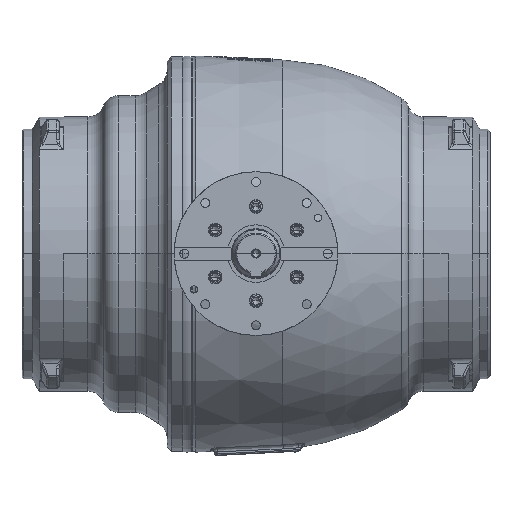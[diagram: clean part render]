
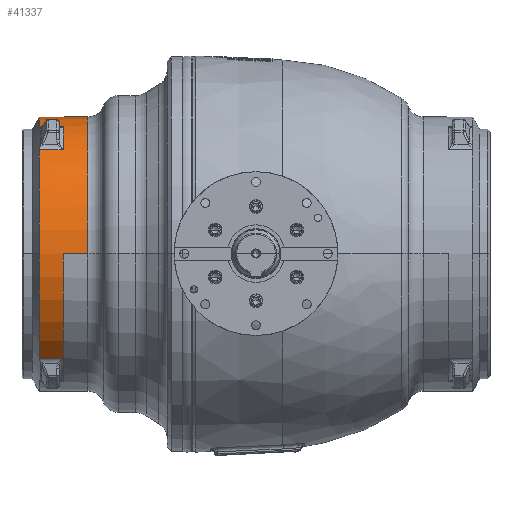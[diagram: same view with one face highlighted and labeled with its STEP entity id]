
A CAD part, top view. The second image highlights one B-rep face of the part: STEP entity #41337.
In plain terms, the highlighted cylindrical face has radius 335 mm (diameter 670 mm), a partial arc.
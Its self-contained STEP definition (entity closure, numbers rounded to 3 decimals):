
#1618=CARTESIAN_POINT('',(-471.,0.,0.));
#1619=DIRECTION('',(-1.,0.,0.));
#1620=DIRECTION('',(0.,-0.76,0.65));
#1621=AXIS2_PLACEMENT_3D('',#1618,#1619,#1620);
#1623=DIRECTION('',(-1.,0.,0.));
#1624=VECTOR('',#1623,60.56);
#1625=CARTESIAN_POINT('',(-410.44,0.,335.));
#1626=LINE('',#1625,#1624);
#1632=DIRECTION('',(-1.,0.,0.));
#1633=VECTOR('',#1632,60.56);
#1634=CARTESIAN_POINT('',(-410.44,0.,-335.));
#1635=LINE('',#1634,#1633);
#1965=CARTESIAN_POINT('',(-471.,0.,0.));
#1966=DIRECTION('',(1.,0.,0.));
#1967=DIRECTION('',(0.,0.,-1.));
#1968=AXIS2_PLACEMENT_3D('',#1965,#1966,#1967);
#2024=CARTESIAN_POINT('',(-471.,48.285,-331.502));
#2184=CARTESIAN_POINT('',(-529.179,0.,0.));
#2185=DIRECTION('',(-1.,0.,0.));
#2186=DIRECTION('',(0.,0.,1.));
#2187=AXIS2_PLACEMENT_3D('',#2184,#2185,#2186);
#2189=DIRECTION('',(1.,0.,0.));
#2190=VECTOR('',#2189,58.179);
#2191=CARTESIAN_POINT('',(-529.179,254.721,217.583));
#2192=LINE('',#2191,#2190);
#2193=DIRECTION('',(1.,0.,0.));
#2194=VECTOR('',#2193,58.179);
#2195=CARTESIAN_POINT('',(-529.179,311.232,123.935));
#2196=LINE('',#2195,#2194);
#2197=CARTESIAN_POINT('',(-529.179,0.,0.));
#2198=DIRECTION('',(-1.,0.,0.));
#2199=DIRECTION('',(0.,0.929,0.37));
#2200=AXIS2_PLACEMENT_3D('',#2197,#2198,#2199);
#2202=DIRECTION('',(1.,0.,0.));
#2203=VECTOR('',#2202,58.179);
#2204=CARTESIAN_POINT('',(-529.179,48.285,
-331.502));
#2205=LINE('',#2204,#2203);
#2206=CARTESIAN_POINT('',(-410.44,0.,0.));
#2207=DIRECTION('',(1.,0.,0.));
#2208=DIRECTION('',(0.,0.,-1.));
#2209=AXIS2_PLACEMENT_3D('',#2206,#2207,#2208);
#2211=DIRECTION('',(1.,0.,0.));
#2212=VECTOR('',#2211,58.179);
#2213=CARTESIAN_POINT('',(-529.179,-254.721,
217.583));
#2214=LINE('',#2213,#2212);
#2215=CARTESIAN_POINT('',(-529.179,0.,0.));
#2216=DIRECTION('',(-1.,0.,0.));
#2217=DIRECTION('',(0.,-0.76,0.65));
#2218=AXIS2_PLACEMENT_3D('',#2215,#2216,#2217);
#2241=CARTESIAN_POINT('',(-471.,254.721,217.583));
#2606=CARTESIAN_POINT('',(-471.,311.232,123.935));
#2608=CARTESIAN_POINT('',(-471.,0.,0.));
#2609=DIRECTION('',(1.,0.,0.));
#2610=DIRECTION('',(0.,0.929,0.37));
#2611=AXIS2_PLACEMENT_3D('',#2608,#2609,#2610);
#36391=CARTESIAN_POINT('',(-529.179,0.,335.));
#36392=CARTESIAN_POINT('',(-529.179,254.721,
217.583));
#36393=VERTEX_POINT('',#36391);
#36394=VERTEX_POINT('',#36392);
#36401=CARTESIAN_POINT('',(-410.44,0.,-335.));
#36402=CARTESIAN_POINT('',(-410.44,0.,335.));
#36403=VERTEX_POINT('',#36401);
#36404=VERTEX_POINT('',#36402);
#36421=CARTESIAN_POINT('',(-471.,0.,-335.));
#36422=VERTEX_POINT('',#36421);
#36423=CARTESIAN_POINT('',(-471.,0.,335.));
#36424=VERTEX_POINT('',#36423);
#36425=CARTESIAN_POINT('',(-471.,-254.721,217.583));
#36426=VERTEX_POINT('',#36425);
#36447=VERTEX_POINT('',#2241);
#36449=VERTEX_POINT('',#2606);
#36493=VERTEX_POINT('',#2024);
#36580=CARTESIAN_POINT('',(-529.179,311.232,
123.935));
#36581=CARTESIAN_POINT('',(-529.179,48.285,
-331.502));
#36582=VERTEX_POINT('',#36580);
#36583=VERTEX_POINT('',#36581);
#36584=CARTESIAN_POINT('',(-529.179,-254.721,
217.583));
#36585=VERTEX_POINT('',#36584);
#41312=CARTESIAN_POINT('',(-119.45,0.,0.));
#41313=DIRECTION('',(-1.,0.,0.));
#41314=DIRECTION('',(0.,0.,1.));
#41315=AXIS2_PLACEMENT_3D('',#41312,#41313,#41314);
#41316=CYLINDRICAL_SURFACE('',#41315,335.);
#41317=ORIENTED_EDGE('',*,*,#41288,.T.);
#41319=ORIENTED_EDGE('',*,*,#41318,.T.);
#41321=ORIENTED_EDGE('',*,*,#41320,.F.);
#41323=ORIENTED_EDGE('',*,*,#41322,.F.);
#41324=ORIENTED_EDGE('',*,*,#41297,.T.);
#41325=ORIENTED_EDGE('',*,*,#41142,.T.);
#41326=ORIENTED_EDGE('',*,*,#40890,.F.);
#41327=ORIENTED_EDGE('',*,*,#40279,.F.);
#41329=ORIENTED_EDGE('',*,*,#41328,.T.);
#41330=ORIENTED_EDGE('',*,*,#40276,.T.);
#41331=ORIENTED_EDGE('',*,*,#40274,.F.);
#41333=ORIENTED_EDGE('',*,*,#41332,.F.);
#41334=ORIENTED_EDGE('',*,*,#40306,.T.);
#41335=EDGE_LOOP('',(#41317,#41319,#41321,#41323,#41324,#41325,#41326,#41327,
#41329,#41330,#41331,#41333,#41334));
#41336=FACE_OUTER_BOUND('',#41335,.F.);
#41337=ADVANCED_FACE('',(#41336),#41316,.T.);
#1622=CIRCLE('',#1621,335.);
#1969=CIRCLE('',#1968,335.);
#2188=CIRCLE('',#2187,335.);
#2201=CIRCLE('',#2200,335.);
#2210=CIRCLE('',#2209,335.);
#2219=CIRCLE('',#2218,335.);
#2612=CIRCLE('',#2611,335.);
#40274=EDGE_CURVE('',#36426,#36424,#1622,.T.);
#40276=EDGE_CURVE('',#36404,#36424,#1626,.T.);
#40279=EDGE_CURVE('',#36403,#36422,#1635,.T.);
#40306=EDGE_CURVE('',#36585,#36393,#2219,.T.);
#40890=EDGE_CURVE('',#36422,#36493,#1969,.T.);
#41142=EDGE_CURVE('',#36583,#36493,#2205,.T.);
#41288=EDGE_CURVE('',#36393,#36394,#2188,.T.);
#41297=EDGE_CURVE('',#36582,#36583,#2201,.T.);
#41318=EDGE_CURVE('',#36394,#36447,#2192,.T.);
#41320=EDGE_CURVE('',#36449,#36447,#2612,.T.);
#41322=EDGE_CURVE('',#36582,#36449,#2196,.T.);
#41328=EDGE_CURVE('',#36403,#36404,#2210,.T.);
#41332=EDGE_CURVE('',#36585,#36426,#2214,.T.);
